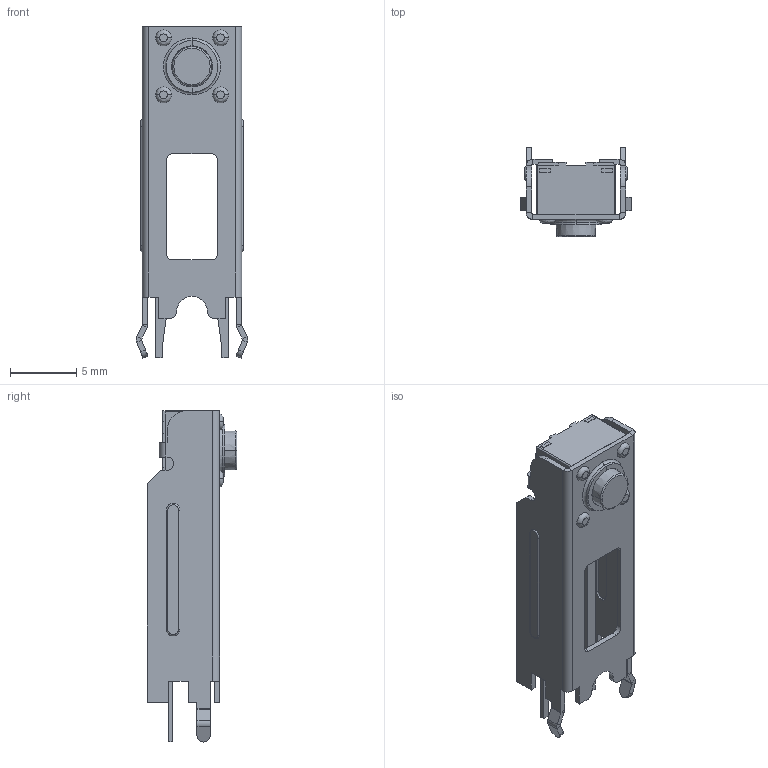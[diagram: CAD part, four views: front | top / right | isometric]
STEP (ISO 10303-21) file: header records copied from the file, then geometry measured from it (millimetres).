
FILE_DESCRIPTION((''),'2;1');
FILE_NAME('JSC60120-H0561-20G_ASM','2026-05-29T09:38:58',('Admin'),(''),'CREO PARAMETRIC BY PTC INC, 2019224','CREO PARAMETRIC BY PTC INC, 2019224','');
FILE_SCHEMA(('AUTOMOTIVE_DESIGN { 1 0 10303 214 1 1 1 1 }'));
Length unit declared in the file: millimetre
Products named in the file (3): JSC60120-H0561-20G_08; JSC60120-H0561-20G_09; JSC60120-H0561-20G_ASM
Assembly tree (2 placements, depth 2):
  JSC60120-H0561-20G_ASM
    JSC60120-H0561-20G_08
    JSC60120-H0561-20G_09
Bounding box: 8.41 x 6.75 x 25.05 mm (x, y, z)
Volume: 288.4 mm3; surface area: 995 mm2
Topology: 2 solids, 2 shells, 243 faces, 653 edges, 443 vertices
Faces by surface type: plane 158, cylinder 61, torus 14, bspline 8, cone 2
Entity records: 8957 total; most frequent: CARTESIAN_POINT 1611, DIRECTION 1286, ORIENTED_EDGE 1184, EDGE_CURVE 592, VECTOR 438, LINE 438, AXIS2_PLACEMENT_3D 424, VERTEX_POINT 370
